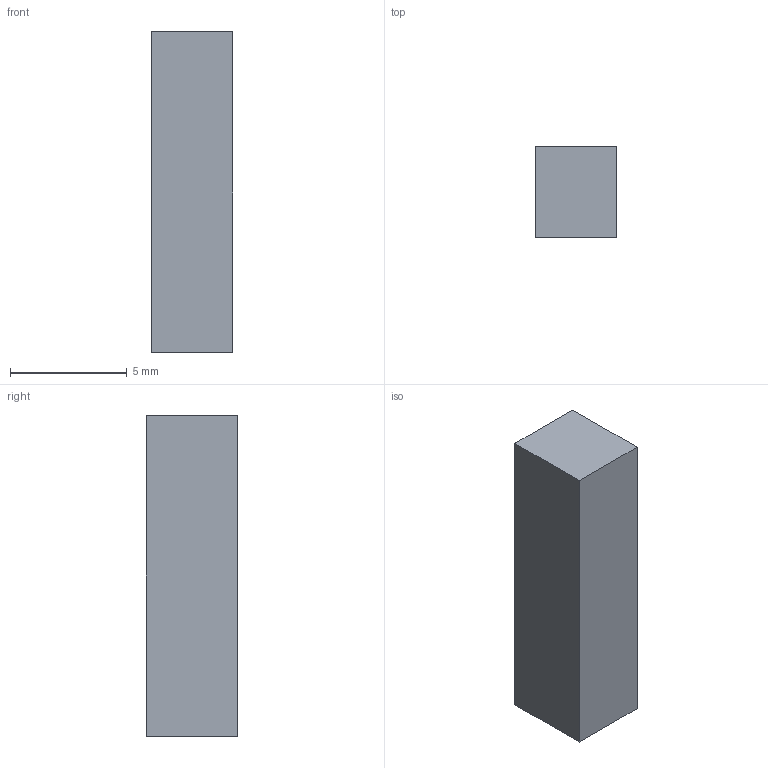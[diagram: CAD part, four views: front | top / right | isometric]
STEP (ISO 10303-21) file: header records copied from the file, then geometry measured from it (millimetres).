
FILE_DESCRIPTION(('Open CASCADE Model'),'2;1');
FILE_NAME('Open CASCADE Shape Model','2026-08-18T10:55:12',('Author'),( 'Open CASCADE'),'Open CASCADE STEP processor 7.9','Open CASCADE 7.9' ,'Unknown');
FILE_SCHEMA(('AUTOMOTIVE_DESIGN { 1 0 10303 214 1 1 1 1 }'));
Length unit declared in the file: millimetre
Products named in the file (1): pcie_fpc_connector
Bounding box: 3.5 x 3.9 x 13.7 mm (x, y, z)
Volume: 187 mm3; surface area: 230.1 mm2
Topology: 1 solids, 1 shells, 6 faces, 12 edges, 8 vertices
Faces by surface type: plane 6
Entity records: 322 total; most frequent: CARTESIAN_POINT 51, DIRECTION 50, LINE 36, VECTOR 36, ORIENTED_EDGE 24, PCURVE 24, DEFINITIONAL_REPRESENTATION 24, EDGE_CURVE 12
